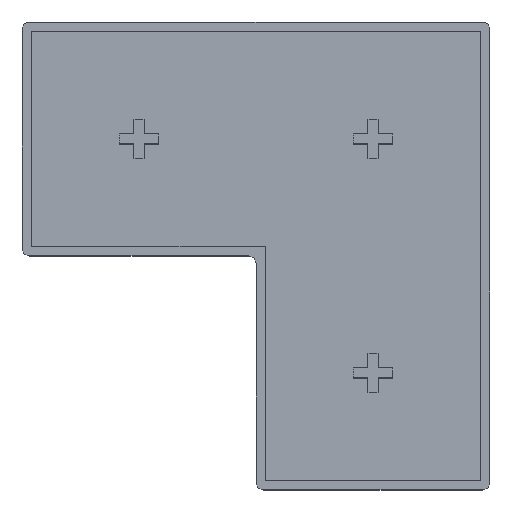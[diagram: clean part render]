
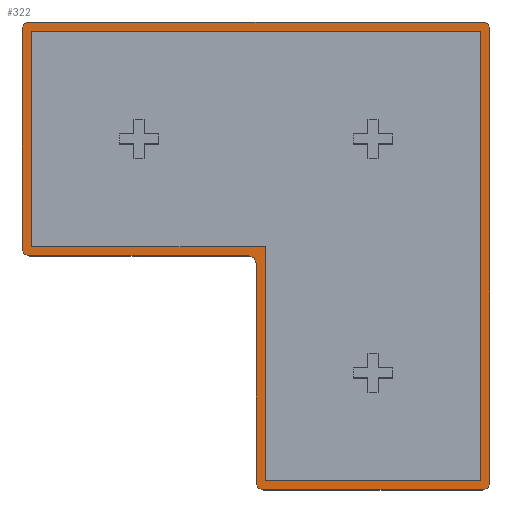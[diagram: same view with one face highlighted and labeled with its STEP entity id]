
A CAD part, top view. The second image highlights one B-rep face of the part: STEP entity #322.
In plain terms, the highlighted planar face has unit normal (0, 0, 1).
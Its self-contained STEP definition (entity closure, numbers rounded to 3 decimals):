
#20 = EDGE_CURVE ( 'NONE', #1455, #1945, #1344, .T. ) ;
#33 = EDGE_CURVE ( 'NONE', #2196, #727, #240, .T. ) ;
#69 = VECTOR ( 'NONE', #1446, 1000. ) ;
#91 = CARTESIAN_POINT ( 'NONE',  ( 30., 29., 5. ) ) ;
#93 = ORIENTED_EDGE ( 'NONE', *, *, #1331, .T. ) ;
#99 = AXIS2_PLACEMENT_3D ( 'NONE', #1556, #464, #1740 ) ;
#107 = LINE ( 'NONE', #1174, #1489 ) ;
#182 = EDGE_CURVE ( 'NONE', #796, #1664, #1633, .T. ) ;
#240 = CIRCLE ( 'NONE', #2006, 1. ) ;
#255 = ORIENTED_EDGE ( 'NONE', *, *, #959, .T. ) ;
#272 = ORIENTED_EDGE ( 'NONE', *, *, #1263, .F. ) ;
#275 = CARTESIAN_POINT ( 'NONE',  ( 0., 0., 5. ) ) ;
#279 = CARTESIAN_POINT ( 'NONE',  ( -30., -30., 5. ) ) ;
#280 = EDGE_CURVE ( 'NONE', #2029, #2199, #329, .T. ) ;
#303 = AXIS2_PLACEMENT_3D ( 'NONE', #565, #1645, #375 ) ;
#320 = ORIENTED_EDGE ( 'NONE', *, *, #1146, .T. ) ;
#322 = ADVANCED_FACE ( 'NONE', ( #1492, #608 ), #1359, .F. ) ;
#329 = CIRCLE ( 'NONE', #2197, 1. ) ;
#333 = VECTOR ( 'NONE', #1181, 1000. ) ;
#344 = VECTOR ( 'NONE', #1746, 1000. ) ;
#375 = DIRECTION ( 'NONE',  ( -1., 0., 0. ) ) ;
#382 = AXIS2_PLACEMENT_3D ( 'NONE', #1722, #635, #1538 ) ;
#404 = VECTOR ( 'NONE', #477, 1000. ) ;
#406 = EDGE_CURVE ( 'NONE', #1350, #1351, #762, .T. ) ;
#414 = EDGE_CURVE ( 'NONE', #1953, #1274, #526, .T. ) ;
#418 = DIRECTION ( 'NONE',  ( -1., 0., 0. ) ) ;
#448 = CARTESIAN_POINT ( 'NONE',  ( -30., -30., 5. ) ) ;
#463 = CARTESIAN_POINT ( 'NONE',  ( -28.8, 0., 5. ) ) ;
#464 = DIRECTION ( 'NONE',  ( 0., 0., 1. ) ) ;
#477 = DIRECTION ( 'NONE',  ( 1., 0., 0. ) ) ;
#488 = DIRECTION ( 'NONE',  ( 0., 0., 1. ) ) ;
#492 = LINE ( 'NONE', #2060, #768 ) ;
#526 = LINE ( 'NONE', #901, #1882 ) ;
#565 = CARTESIAN_POINT ( 'NONE',  ( -1., -1., 5. ) ) ;
#568 = DIRECTION ( 'NONE',  ( 0., 1., 0. ) ) ;
#584 = AXIS2_PLACEMENT_3D ( 'NONE', #275, #1189, #1001 ) ;
#608 = FACE_BOUND ( 'NONE', #2317, .T. ) ;
#610 = EDGE_CURVE ( 'NONE', #2034, #1362, #1014, .T. ) ;
#635 = DIRECTION ( 'NONE',  ( 0., 0., 1. ) ) ;
#640 = CARTESIAN_POINT ( 'NONE',  ( -28.8, 1.2, 5. ) ) ;
#663 = DIRECTION ( 'NONE',  ( 0., -1., 0. ) ) ;
#684 = DIRECTION ( 'NONE',  ( -1., 0., 0. ) ) ;
#727 = VERTEX_POINT ( 'NONE', #807 ) ;
#732 = LINE ( 'NONE', #930, #1569 ) ;
#747 = CARTESIAN_POINT ( 'NONE',  ( -1., 0., 5. ) ) ;
#762 = LINE ( 'NONE', #1732, #814 ) ;
#768 = VECTOR ( 'NONE', #418, 1000. ) ;
#777 = LINE ( 'NONE', #1759, #344 ) ;
#786 = DIRECTION ( 'NONE',  ( -1., 0., 0. ) ) ;
#796 = VERTEX_POINT ( 'NONE', #1194 ) ;
#807 = CARTESIAN_POINT ( 'NONE',  ( -29., 0., 5. ) ) ;
#814 = VECTOR ( 'NONE', #1010, 1000. ) ;
#820 = ORIENTED_EDGE ( 'NONE', *, *, #414, .T. ) ;
#821 = LINE ( 'NONE', #448, #333 ) ;
#843 = CARTESIAN_POINT ( 'NONE',  ( 29., -29., 5. ) ) ;
#901 = CARTESIAN_POINT ( 'NONE',  ( 1.2, -30., 5. ) ) ;
#923 = CARTESIAN_POINT ( 'NONE',  ( 0., -1., 5. ) ) ;
#930 = CARTESIAN_POINT ( 'NONE',  ( 0., -28.8, 5. ) ) ;
#931 = ORIENTED_EDGE ( 'NONE', *, *, #20, .T. ) ;
#945 = EDGE_CURVE ( 'NONE', #1664, #2029, #2240, .T. ) ;
#959 = EDGE_CURVE ( 'NONE', #1274, #1466, #1179, .T. ) ;
#1001 = DIRECTION ( 'NONE',  ( -1., 0., 0. ) ) ;
#1010 = DIRECTION ( 'NONE',  ( 0., 1., 0. ) ) ;
#1014 = CIRCLE ( 'NONE', #303, 1. ) ;
#1022 = CARTESIAN_POINT ( 'NONE',  ( -30., 1., 5. ) ) ;
#1023 = DIRECTION ( 'NONE',  ( -1., 0., 0. ) ) ;
#1059 = VECTOR ( 'NONE', #663, 1000. ) ;
#1077 = EDGE_CURVE ( 'NONE', #2149, #2196, #821, .T. ) ;
#1078 = CARTESIAN_POINT ( 'NONE',  ( 1., -30., 5. ) ) ;
#1146 = EDGE_CURVE ( 'NONE', #1945, #1340, #1779, .T. ) ;
#1157 = ORIENTED_EDGE ( 'NONE', *, *, #1749, .F. ) ;
#1174 = CARTESIAN_POINT ( 'NONE',  ( -30., 0., 5. ) ) ;
#1179 = LINE ( 'NONE', #1553, #69 ) ;
#1181 = DIRECTION ( 'NONE',  ( 0., -1., 0. ) ) ;
#1184 = CARTESIAN_POINT ( 'NONE',  ( -30., 30., 5. ) ) ;
#1185 = CARTESIAN_POINT ( 'NONE',  ( 1.2, -28.8, 5. ) ) ;
#1189 = DIRECTION ( 'NONE',  ( 0., 0., -1. ) ) ;
#1194 = CARTESIAN_POINT ( 'NONE',  ( 0., -29., 5. ) ) ;
#1213 = VECTOR ( 'NONE', #568, 1000. ) ;
#1218 = CARTESIAN_POINT ( 'NONE',  ( 29., 30., 5. ) ) ;
#1233 = ORIENTED_EDGE ( 'NONE', *, *, #182, .T. ) ;
#1256 = DIRECTION ( 'NONE',  ( 1., 0., 0. ) ) ;
#1263 = EDGE_CURVE ( 'NONE', #1351, #1293, #492, .T. ) ;
#1270 = CARTESIAN_POINT ( 'NONE',  ( 28.8, -28.8, 5. ) ) ;
#1274 = VERTEX_POINT ( 'NONE', #1498 ) ;
#1293 = VERTEX_POINT ( 'NONE', #1970 ) ;
#1316 = DIRECTION ( 'NONE',  ( 0., 0., 1. ) ) ;
#1331 = EDGE_CURVE ( 'NONE', #2199, #1455, #1680, .T. ) ;
#1340 = VERTEX_POINT ( 'NONE', #1473 ) ;
#1344 = CIRCLE ( 'NONE', #1885, 1. ) ;
#1346 = CARTESIAN_POINT ( 'NONE',  ( -30., 29., 5. ) ) ;
#1350 = VERTEX_POINT ( 'NONE', #1270 ) ;
#1351 = VERTEX_POINT ( 'NONE', #2184 ) ;
#1359 = PLANE ( 'NONE',  #584 ) ;
#1362 = VERTEX_POINT ( 'NONE', #923 ) ;
#1376 = CARTESIAN_POINT ( 'NONE',  ( 30., -29., 5. ) ) ;
#1391 = EDGE_CURVE ( 'NONE', #1953, #1350, #732, .T. ) ;
#1437 = CARTESIAN_POINT ( 'NONE',  ( 30., -30., 5. ) ) ;
#1446 = DIRECTION ( 'NONE',  ( -1., 0., 0. ) ) ;
#1452 = ORIENTED_EDGE ( 'NONE', *, *, #1077, .T. ) ;
#1455 = VERTEX_POINT ( 'NONE', #91 ) ;
#1466 = VERTEX_POINT ( 'NONE', #640 ) ;
#1473 = CARTESIAN_POINT ( 'NONE',  ( -29., 30., 5. ) ) ;
#1489 = VECTOR ( 'NONE', #684, 1000. ) ;
#1492 = FACE_OUTER_BOUND ( 'NONE', #1827, .T. ) ;
#1498 = CARTESIAN_POINT ( 'NONE',  ( 1.2, 1.2, 5. ) ) ;
#1508 = CARTESIAN_POINT ( 'NONE',  ( -29., 1., 5. ) ) ;
#1516 = DIRECTION ( 'NONE',  ( -1., 0., 0. ) ) ;
#1532 = LINE ( 'NONE', #463, #1059 ) ;
#1538 = DIRECTION ( 'NONE',  ( -1., 0., 0. ) ) ;
#1553 = CARTESIAN_POINT ( 'NONE',  ( -30., 1.2, 5. ) ) ;
#1556 = CARTESIAN_POINT ( 'NONE',  ( -29., 29., 5. ) ) ;
#1559 = ORIENTED_EDGE ( 'NONE', *, *, #280, .T. ) ;
#1568 = ORIENTED_EDGE ( 'NONE', *, *, #610, .T. ) ;
#1569 = VECTOR ( 'NONE', #1256, 1000. ) ;
#1584 = ORIENTED_EDGE ( 'NONE', *, *, #33, .T. ) ;
#1588 = EDGE_CURVE ( 'NONE', #1293, #1466, #1532, .T. ) ;
#1633 = CIRCLE ( 'NONE', #382, 1. ) ;
#1645 = DIRECTION ( 'NONE',  ( 0., 0., -1. ) ) ;
#1664 = VERTEX_POINT ( 'NONE', #1078 ) ;
#1680 = LINE ( 'NONE', #1437, #1213 ) ;
#1722 = CARTESIAN_POINT ( 'NONE',  ( 1., -29., 5. ) ) ;
#1732 = CARTESIAN_POINT ( 'NONE',  ( 28.8, 0., 5. ) ) ;
#1740 = DIRECTION ( 'NONE',  ( -1., 0., 0. ) ) ;
#1746 = DIRECTION ( 'NONE',  ( 0., 1., 0. ) ) ;
#1749 = EDGE_CURVE ( 'NONE', #796, #1362, #777, .T. ) ;
#1759 = CARTESIAN_POINT ( 'NONE',  ( 0., -30., 5. ) ) ;
#1779 = LINE ( 'NONE', #1184, #2300 ) ;
#1798 = ORIENTED_EDGE ( 'NONE', *, *, #1391, .F. ) ;
#1827 = EDGE_LOOP ( 'NONE', ( #1949, #1559, #93, #931, #320, #2222, #1452, #1584, #2259, #1568, #1157, #1233 ) ) ;
#1882 = VECTOR ( 'NONE', #1976, 1000. ) ;
#1885 = AXIS2_PLACEMENT_3D ( 'NONE', #2079, #488, #1921 ) ;
#1916 = DIRECTION ( 'NONE',  ( 0., 0., 1. ) ) ;
#1921 = DIRECTION ( 'NONE',  ( -1., 0., 0. ) ) ;
#1945 = VERTEX_POINT ( 'NONE', #1218 ) ;
#1949 = ORIENTED_EDGE ( 'NONE', *, *, #945, .T. ) ;
#1953 = VERTEX_POINT ( 'NONE', #1185 ) ;
#1970 = CARTESIAN_POINT ( 'NONE',  ( -28.8, 28.8, 5. ) ) ;
#1976 = DIRECTION ( 'NONE',  ( 0., 1., 0. ) ) ;
#2006 = AXIS2_PLACEMENT_3D ( 'NONE', #1508, #1316, #1516 ) ;
#2029 = VERTEX_POINT ( 'NONE', #2172 ) ;
#2034 = VERTEX_POINT ( 'NONE', #747 ) ;
#2060 = CARTESIAN_POINT ( 'NONE',  ( 0., 28.8, 5. ) ) ;
#2072 = ORIENTED_EDGE ( 'NONE', *, *, #1588, .F. ) ;
#2074 = EDGE_CURVE ( 'NONE', #2034, #727, #107, .T. ) ;
#2079 = CARTESIAN_POINT ( 'NONE',  ( 29., 29., 5. ) ) ;
#2149 = VERTEX_POINT ( 'NONE', #1346 ) ;
#2161 = EDGE_CURVE ( 'NONE', #1340, #2149, #2207, .T. ) ;
#2172 = CARTESIAN_POINT ( 'NONE',  ( 29., -30., 5. ) ) ;
#2177 = ORIENTED_EDGE ( 'NONE', *, *, #406, .F. ) ;
#2184 = CARTESIAN_POINT ( 'NONE',  ( 28.8, 28.8, 5. ) ) ;
#2196 = VERTEX_POINT ( 'NONE', #1022 ) ;
#2197 = AXIS2_PLACEMENT_3D ( 'NONE', #843, #1916, #1023 ) ;
#2199 = VERTEX_POINT ( 'NONE', #1376 ) ;
#2207 = CIRCLE ( 'NONE', #99, 1. ) ;
#2222 = ORIENTED_EDGE ( 'NONE', *, *, #2161, .T. ) ;
#2240 = LINE ( 'NONE', #279, #404 ) ;
#2259 = ORIENTED_EDGE ( 'NONE', *, *, #2074, .F. ) ;
#2300 = VECTOR ( 'NONE', #786, 1000. ) ;
#2317 = EDGE_LOOP ( 'NONE', ( #2072, #272, #2177, #1798, #820, #255 ) ) ;
